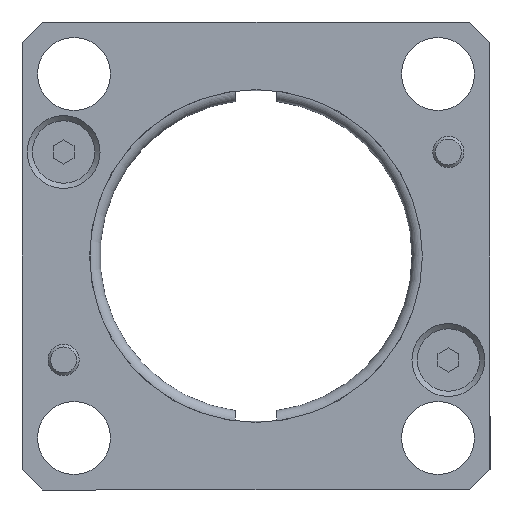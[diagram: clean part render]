
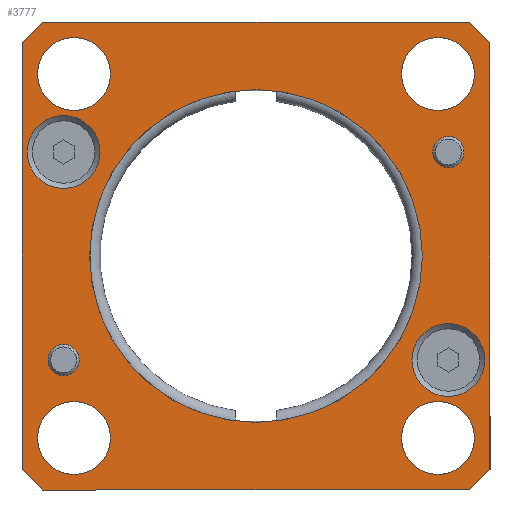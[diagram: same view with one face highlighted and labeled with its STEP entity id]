
A CAD part, front view. The second image highlights one B-rep face of the part: STEP entity #3777.
In plain terms, the highlighted planar face has unit normal (0, -1, 0) as drawn and (0, 0, -1) by its records, which use the part's own axes.
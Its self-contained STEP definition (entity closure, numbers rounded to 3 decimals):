
#150=FACE_BOUND('',#463,.T.);
#151=FACE_BOUND('',#464,.T.);
#152=FACE_BOUND('',#465,.T.);
#153=FACE_BOUND('',#466,.T.);
#154=FACE_BOUND('',#467,.T.);
#155=FACE_BOUND('',#468,.T.);
#156=FACE_BOUND('',#469,.T.);
#157=FACE_BOUND('',#470,.T.);
#158=FACE_BOUND('',#471,.T.);
#195=CIRCLE('',#4042,3.5);
#197=CIRCLE('',#4045,3.5);
#198=CIRCLE('',#4046,1.5);
#199=CIRCLE('',#4047,1.5);
#200=CIRCLE('',#4048,16.);
#201=CIRCLE('',#4049,3.5);
#202=CIRCLE('',#4050,3.5);
#203=CIRCLE('',#4051,3.5);
#204=CIRCLE('',#4052,3.5);
#249=FACE_OUTER_BOUND('',#462,.T.);
#462=EDGE_LOOP('',(#2546,#2547,#2548,#2549,#2550,#2551,#2552,#2553));
#463=EDGE_LOOP('',(#2554));
#464=EDGE_LOOP('',(#2555));
#465=EDGE_LOOP('',(#2556));
#466=EDGE_LOOP('',(#2557));
#467=EDGE_LOOP('',(#2558));
#468=EDGE_LOOP('',(#2559));
#469=EDGE_LOOP('',(#2560));
#470=EDGE_LOOP('',(#2561));
#471=EDGE_LOOP('',(#2562));
#709=LINE('',#4971,#1046);
#710=LINE('',#4973,#1047);
#711=LINE('',#4975,#1048);
#712=LINE('',#4977,#1049);
#713=LINE('',#4979,#1050);
#714=LINE('',#4981,#1051);
#715=LINE('',#4983,#1052);
#716=LINE('',#4984,#1053);
#1046=VECTOR('',#4231,10.);
#1047=VECTOR('',#4232,10.);
#1048=VECTOR('',#4233,10.);
#1049=VECTOR('',#4234,10.);
#1050=VECTOR('',#4235,10.);
#1051=VECTOR('',#4236,10.);
#1052=VECTOR('',#4237,10.);
#1053=VECTOR('',#4238,10.);
#1584=VERTEX_POINT('',#4963);
#1586=VERTEX_POINT('',#4969);
#1587=VERTEX_POINT('',#4970);
#1588=VERTEX_POINT('',#4972);
#1589=VERTEX_POINT('',#4974);
#1590=VERTEX_POINT('',#4976);
#1591=VERTEX_POINT('',#4978);
#1592=VERTEX_POINT('',#4980);
#1593=VERTEX_POINT('',#4982);
#1594=VERTEX_POINT('',#4985);
#1595=VERTEX_POINT('',#4987);
#1596=VERTEX_POINT('',#4989);
#1597=VERTEX_POINT('',#4991);
#1598=VERTEX_POINT('',#4993);
#1599=VERTEX_POINT('',#4995);
#1600=VERTEX_POINT('',#4997);
#1601=VERTEX_POINT('',#4999);
#1967=EDGE_CURVE('',#1584,#1584,#195,.T.);
#1970=EDGE_CURVE('',#1586,#1587,#709,.T.);
#1971=EDGE_CURVE('',#1586,#1588,#710,.T.);
#1972=EDGE_CURVE('',#1589,#1588,#711,.T.);
#1973=EDGE_CURVE('',#1589,#1590,#712,.T.);
#1974=EDGE_CURVE('',#1591,#1590,#713,.T.);
#1975=EDGE_CURVE('',#1591,#1592,#714,.T.);
#1976=EDGE_CURVE('',#1593,#1592,#715,.T.);
#1977=EDGE_CURVE('',#1593,#1587,#716,.T.);
#1978=EDGE_CURVE('',#1594,#1594,#197,.T.);
#1979=EDGE_CURVE('',#1595,#1595,#198,.T.);
#1980=EDGE_CURVE('',#1596,#1596,#199,.T.);
#1981=EDGE_CURVE('',#1597,#1597,#200,.T.);
#1982=EDGE_CURVE('',#1598,#1598,#201,.T.);
#1983=EDGE_CURVE('',#1599,#1599,#202,.T.);
#1984=EDGE_CURVE('',#1600,#1600,#203,.T.);
#1985=EDGE_CURVE('',#1601,#1601,#204,.T.);
#2546=ORIENTED_EDGE('',*,*,#1970,.F.);
#2547=ORIENTED_EDGE('',*,*,#1971,.T.);
#2548=ORIENTED_EDGE('',*,*,#1972,.F.);
#2549=ORIENTED_EDGE('',*,*,#1973,.T.);
#2550=ORIENTED_EDGE('',*,*,#1974,.F.);
#2551=ORIENTED_EDGE('',*,*,#1975,.T.);
#2552=ORIENTED_EDGE('',*,*,#1976,.F.);
#2553=ORIENTED_EDGE('',*,*,#1977,.T.);
#2554=ORIENTED_EDGE('',*,*,#1978,.F.);
#2555=ORIENTED_EDGE('',*,*,#1979,.T.);
#2556=ORIENTED_EDGE('',*,*,#1980,.T.);
#2557=ORIENTED_EDGE('',*,*,#1981,.T.);
#2558=ORIENTED_EDGE('',*,*,#1982,.T.);
#2559=ORIENTED_EDGE('',*,*,#1983,.T.);
#2560=ORIENTED_EDGE('',*,*,#1984,.T.);
#2561=ORIENTED_EDGE('',*,*,#1985,.T.);
#2562=ORIENTED_EDGE('',*,*,#1967,.F.);
#3678=PLANE('',#4044);
#3777=ADVANCED_FACE('',(#249,#150,#151,#152,#153,#154,#155,#156,#157,#158),
#3678,.F.);
#4042=AXIS2_PLACEMENT_3D('',#4964,#4224,#4225);
#4044=AXIS2_PLACEMENT_3D('',#4968,#4229,#4230);
#4045=AXIS2_PLACEMENT_3D('',#4986,#4239,#4240);
#4046=AXIS2_PLACEMENT_3D('',#4988,#4241,#4242);
#4047=AXIS2_PLACEMENT_3D('',#4990,#4243,#4244);
#4048=AXIS2_PLACEMENT_3D('',#4992,#4245,#4246);
#4049=AXIS2_PLACEMENT_3D('',#4994,#4247,#4248);
#4050=AXIS2_PLACEMENT_3D('',#4996,#4249,#4250);
#4051=AXIS2_PLACEMENT_3D('',#4998,#4251,#4252);
#4052=AXIS2_PLACEMENT_3D('',#5000,#4253,#4254);
#4224=DIRECTION('center_axis',(0.,0.,-1.));
#4225=DIRECTION('ref_axis',(1.,0.,0.));
#4229=DIRECTION('center_axis',(0.,0.,1.));
#4230=DIRECTION('ref_axis',(1.,0.,0.));
#4231=DIRECTION('',(0.707,0.707,0.));
#4232=DIRECTION('',(-1.,0.,0.));
#4233=DIRECTION('',(0.707,-0.707,0.));
#4234=DIRECTION('',(0.,1.,0.));
#4235=DIRECTION('',(-0.707,-0.707,0.));
#4236=DIRECTION('',(1.,0.,0.));
#4237=DIRECTION('',(-0.707,0.707,0.));
#4238=DIRECTION('',(0.,-1.,0.));
#4239=DIRECTION('center_axis',(0.,0.,-1.));
#4240=DIRECTION('ref_axis',(1.,0.,0.));
#4241=DIRECTION('center_axis',(0.,0.,1.));
#4242=DIRECTION('ref_axis',(1.,0.,0.));
#4243=DIRECTION('center_axis',(0.,0.,1.));
#4244=DIRECTION('ref_axis',(1.,0.,0.));
#4245=DIRECTION('center_axis',(0.,0.,1.));
#4246=DIRECTION('ref_axis',(-1.,0.,0.));
#4247=DIRECTION('center_axis',(0.,0.,1.));
#4248=DIRECTION('ref_axis',(-1.,0.,0.));
#4249=DIRECTION('center_axis',(0.,0.,1.));
#4250=DIRECTION('ref_axis',(-1.,0.,0.));
#4251=DIRECTION('center_axis',(0.,0.,1.));
#4252=DIRECTION('ref_axis',(-1.,0.,0.));
#4253=DIRECTION('center_axis',(0.,0.,1.));
#4254=DIRECTION('ref_axis',(-1.,0.,0.));
#4963=CARTESIAN_POINT('',(-22.,-10.,0.));
#4964=CARTESIAN_POINT('Origin',(-18.5,-10.,0.));
#4968=CARTESIAN_POINT('Origin',(0.,0.,
0.));
#4969=CARTESIAN_POINT('',(20.5,-22.5,0.));
#4970=CARTESIAN_POINT('',(22.5,-20.5,0.));
#4971=CARTESIAN_POINT('',(21.5,-21.5,0.));
#4972=CARTESIAN_POINT('',(-20.5,-22.5,0.));
#4973=CARTESIAN_POINT('',(22.5,-22.5,0.));
#4974=CARTESIAN_POINT('',(-22.5,-20.5,0.));
#4975=CARTESIAN_POINT('',(-21.5,-21.5,0.));
#4976=CARTESIAN_POINT('',(-22.5,20.5,0.));
#4977=CARTESIAN_POINT('',(-22.5,-22.5,0.));
#4978=CARTESIAN_POINT('',(-20.5,22.5,0.));
#4979=CARTESIAN_POINT('',(-21.5,21.5,0.));
#4980=CARTESIAN_POINT('',(20.5,22.5,0.));
#4981=CARTESIAN_POINT('',(-22.5,22.5,0.));
#4982=CARTESIAN_POINT('',(22.5,20.5,0.));
#4983=CARTESIAN_POINT('',(21.5,21.5,0.));
#4984=CARTESIAN_POINT('',(22.5,22.5,0.));
#4985=CARTESIAN_POINT('',(15.,10.,0.));
#4986=CARTESIAN_POINT('Origin',(18.5,10.,0.));
#4987=CARTESIAN_POINT('',(17.,-10.,0.));
#4988=CARTESIAN_POINT('Origin',(18.5,-10.,0.));
#4989=CARTESIAN_POINT('',(-20.,10.,0.));
#4990=CARTESIAN_POINT('Origin',(-18.5,10.,0.));
#4991=CARTESIAN_POINT('',(16.,0.,0.));
#4992=CARTESIAN_POINT('Origin',(0.,0.,0.));
#4993=CARTESIAN_POINT('',(21.,-17.5,0.));
#4994=CARTESIAN_POINT('Origin',(17.5,-17.5,0.));
#4995=CARTESIAN_POINT('',(-14.,-17.5,0.));
#4996=CARTESIAN_POINT('Origin',(-17.5,-17.5,0.));
#4997=CARTESIAN_POINT('',(21.,17.5,0.));
#4998=CARTESIAN_POINT('Origin',(17.5,17.5,0.));
#4999=CARTESIAN_POINT('',(-14.,17.5,0.));
#5000=CARTESIAN_POINT('Origin',(-17.5,17.5,0.));
